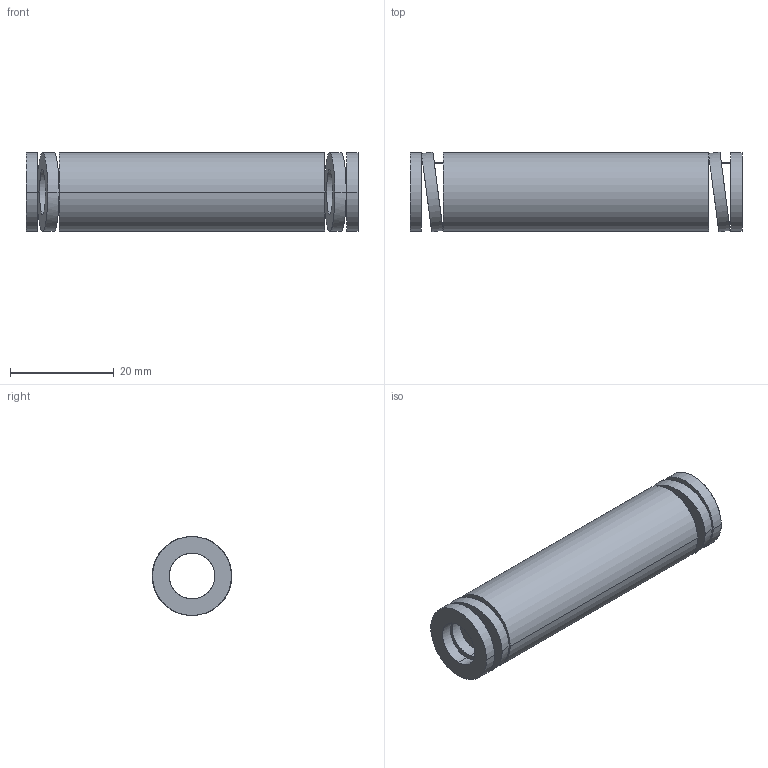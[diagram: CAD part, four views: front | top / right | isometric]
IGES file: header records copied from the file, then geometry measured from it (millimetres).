
Start section: START RECORD GO HERE.
Global section: file name: 392-B16-064.igs; native system: DASSAULT SYSTEMES CATIA V5 R20 - www.3ds.com; preprocessor: CATIA Version 5 Release 20 ; author: Utente; organization: NB04-ASUS; date: 20210812.160524; units: millimetre
Bounding box: 64 x 15.36 x 15.2 mm (x, y, z)
Surface area: 5722.9 mm2 (no closed solid volume)
Topology: 0 solids, 0 shells, 38 faces, 184 edges, 184 vertices
Faces by surface type: revolution 28, plane 10
